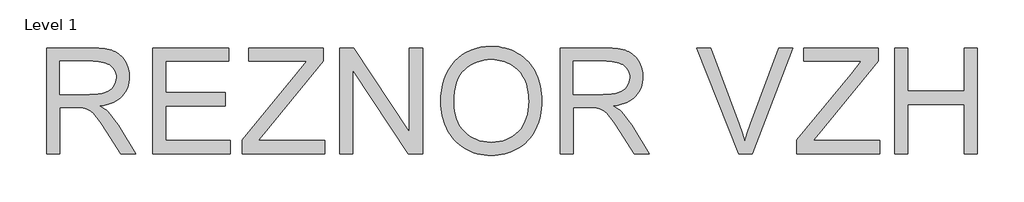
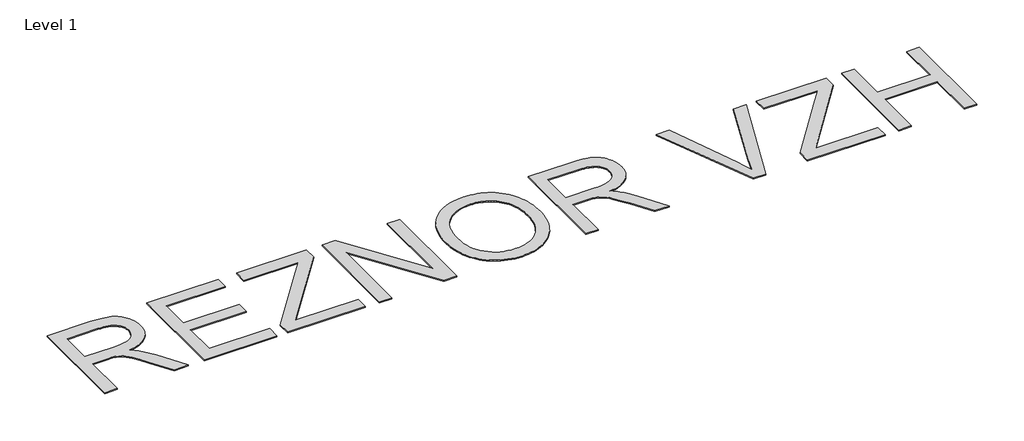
# One storey, incomplete: 1 proxy.
"""IFC4 building model written with IfcOpenShell, lengths in millimetres."""

from ifc_helpers import new_model, si_unit, origin, origin_with_axes, place, context, project, spatial, polyline, outline, extrude, element, save

model = new_model("IFC4")

# Units and contexts
model_context = context("Model", 3, world=origin())
ifc_project = project(units=[si_unit("LENGTHUNIT", "METRE", prefix="MILLI")], contexts=[model_context])

# Site, building, storey
site = spatial("IfcSite", under=ifc_project)
building = spatial("IfcBuilding", under=site)
storey = spatial("IfcBuildingStorey", under=building, Name="Level 1", Elevation=0.0)

# Proxy
placement = place(None, origin())
element("IfcBuildingElementProxy", 1, Name="96\" Arial", ObjectType="96\" Arial", at=placement, inside=storey, context=model_context, shape_type="SweptSolid", body=[
    extrude(outline(polyline([(-7152.262658, -25989.969837), (-7152.262658, -23543.993209), (-6098.2712643, -23543.993209), (-5946.9839373, -23548.1173609), (-5814.9924159, -23560.4898165), (-5702.2967002, -23581.1105759), (-5653.1847694, -23594.5140695), (-5608.89679, -23609.979639), (-5568.075151, -23628.0624588), (-5529.3622412, -23649.3177031), (-5492.7580606, -23673.7453719), (-5458.2626093, -23701.3454652), (-5425.8758872, -23732.1179831), (-5395.5978943, -23766.0629254), (-5367.4286307, -23803.1802923), (-5341.3680963, -23843.4700837), (-5317.9248122, -23885.891931), (-5297.6072993, -23929.4054656), (-5280.4155576, -23974.0106874), (-5266.3495871, -24019.7075965), (-5255.4093878, -24066.4961929), (-5247.5949598, -24114.3764765), (-5242.9063029, -24163.3484474), (-5241.3434173, -24213.4121055), (-5243.9326756, -24277.5137421), (-5251.7004503, -24339.0401165), (-5264.6467416, -24397.9912286), (-5282.7715493, -24454.3670785), (-5306.0748735, -24508.1676661), (-5334.5567143, -24559.3929914), (-5368.2170715, -24608.0430545), (-5407.0559452, -24654.1178554), (-5451.306602, -24696.8616105), (-5501.2023082, -24735.5185363), (-5556.743064, -24770.0886329), (-5617.9288692, -24800.5719003), (-5684.759724, -24826.9683384), (-5757.2356283, -24849.2779473), (-5835.3565822, -24867.500727), (-5919.1225855, -24881.6366775), (-5865.2660139, -24914.6672151), (-5818.3514537, -24947.4738169), (-5778.3789047, -24980.0564829), (-5745.3483671, -25012.415213), (-5682.385071, -25084.4852336), (-5620.0935824, -25160.9593258), (-5497.526028, -25327.1197254), (-5089.6642026, -25989.969837), (-5444.9757489, -25989.969837), (-5763.2632349, -25482.979076), (-5890.6080875, -25289.4985029), (-5993.1707061, -25147.3738844), (-6037.0807937, -25093.7972326), (-6078.6395549, -25049.5139186), (-6117.8469897, -25014.5239422), (-6154.7030981, -24988.8273036), (-6226.7357961, -24953.2215037), (-6263.2560007, -24940.2892084), (-6300.1121091, -24930.603983), (-6371.6222901, -24922.5422925), (-6477.4693011, -24919.8550623), (-6846.5155795, -24919.8550623), (-6846.5155795, -25989.969837), (-7152.262658, -25989.969837)]), holes=[polyline([(-6846.5155795, -24614.1079838), (-6162.1676264, -24614.1079838), (-6058.392022, -24611.4020923), (-5965.6265967, -24603.2844178), (-5883.8713507, -24589.7549602), (-5813.1262839, -24570.8137197), (-5751.805184, -24545.9195179), (-5698.3218389, -24514.5311765), (-5652.6762484, -24476.6486954), (-5614.8684127, -24432.2720748), (-5585.215574, -24383.584689), (-5564.034975, -24332.7699127), (-5551.3266156, -24279.8277459), (-5547.0904958, -24224.7581885), (-5549.1105838, -24184.7576475), (-5555.1708477, -24146.5672547), (-5565.2712875, -24110.18701), (-5579.4119033, -24075.6169134), (-5597.592695, -24042.8569649), (-5619.8136626, -24011.9071645), (-5646.0748062, -23982.7675122), (-5676.3761257, -23955.438008), (-5711.0441943, -23930.6651048), (-5750.405585, -23909.1952553), (-5794.4602978, -23891.0284596), (-5843.2083329, -23876.1647176), (-5896.64969, -23864.6040294), (-5954.7843694, -23856.346395), (-6017.6123709, -23851.3918144), (-6085.1336945, -23849.7402875), (-6846.5155795, -23849.7402875), (-6846.5155795, -24614.1079838)])]), origin_with_axes(), (0.0, 0.0, 1.0), 25.4),
    extrude(outline(polyline([(-4706.2860299, -25989.969837), (-4706.2860299, -23543.993209), (-2948.2403285, -23543.993209), (-2948.2403285, -23849.7402875), (-4400.5389514, -23849.7402875), (-4400.5389514, -24575.889599), (-3024.6770982, -24575.889599), (-3024.6770982, -24881.6366775), (-4400.5389514, -24881.6366775), (-4400.5389514, -25684.2227585), (-2910.0219437, -25684.2227585), (-2910.0219437, -25989.969837), (-4706.2860299, -25989.969837)])), origin_with_axes(), (0.0, 0.0, 1.0), 25.4),
    extrude(outline(polyline([(-2642.49325, -25989.969837), (-2642.49325, -25672.8766755), (-1392.0354719, -24140.5583094), (-1154.3648914, -23849.7402875), (-2489.6197108, -23849.7402875), (-2489.6197108, -23543.993209), (-769.7923942, -23543.993209), (-769.7923942, -23849.7402875), (-2138.4883003, -25526.5719212), (-2267.4753491, -25684.2227585), (-731.5740094, -25684.2227585), (-731.5740094, -25989.969837), (-2642.49325, -25989.969837)])), origin_with_axes(), (0.0, 0.0, 1.0), 25.4),
    extrude(outline(polyline([(-387.6085461, -25989.969837), (-387.6085461, -23543.993209), (-60.3636261, -23543.993209), (1217.5636161, -25481.7847515), (1217.5636161, -23543.993209), (1523.3106946, -23543.993209), (1523.3106946, -25989.969837), (1196.0657746, -25989.969837), (-81.8614676, -24051.5811323), (-81.8614676, -25989.969837), (-387.6085461, -25989.969837)])), origin_with_axes(), (0.0, 0.0, 1.0), 25.4),
    extrude(outline(polyline([(1943.7129275, -24799.2282852), (1948.8074681, -24651.6638917), (1964.0910898, -24512.3291406), (1989.5637925, -24381.224032), (2025.2255764, -24258.3485658), (2071.0764414, -24143.702742), (2127.1163875, -24037.2865606), (2193.3454147, -23939.1000217), (2269.763523, -23849.1431252), (2354.2339912, -23768.6661797), (2444.620098, -23698.9194935), (2540.9218435, -23639.9030668), (2643.1392277, -23591.6168994), (2751.2722506, -23554.0609915), (2865.3209121, -23527.235343), (2985.2852123, -23511.1399539), (3111.1651511, -23505.7748242), (3194.4786174, -23508.2941025), (3275.7206771, -23515.8519374), (3354.8913303, -23528.4483288), (3431.9905768, -23546.0832769), (3507.0184167, -23568.7567816), (3579.97485, -23596.4688428), (3650.8598767, -23629.2194607), (3719.6734968, -23667.0086351), (3785.435991, -23709.3045185), (3847.1676399, -23755.5752632), (3904.8684435, -23805.8208692), (3958.5384019, -23860.0413365), (4008.177515, -23918.2366652), (4053.7857828, -23980.4068551), (4095.3632054, -24046.5519064), (4132.9097826, -24116.6718189), (4166.2202401, -24189.992148), (4195.0893032, -24265.7384488), (4219.516972, -24343.9107212), (4239.5032465, -24424.5089654), (4255.0481267, -24507.5331812), (4266.1516125, -24592.9833687), (4272.813704, -24680.8595279), (4275.0344011, -24771.1616589), (4272.6970707, -24862.6487836), (4265.6850795, -24951.6912754), (4253.9984274, -25038.2891342), (4237.6371144, -25122.4423599), (4216.6011407, -25204.1509526), (4190.8905061, -25283.4149123), (4160.5052106, -25360.234239), (4125.4452543, -25434.6089327), (4086.0978596, -25505.5406127), (4042.8502489, -25572.0308984), (3995.7024221, -25634.0797898), (3944.6543793, -25691.6872868), (3889.7061205, -25744.8533895), (3830.8576456, -25793.5780979), (3768.1089547, -25837.8614119), (3701.4600478, -25877.7033316), (3632.18456, -25912.9732278), (3561.5561265, -25943.5404711), (3489.5747471, -25969.4050616), (3416.2404221, -25990.5669993), (3341.5531513, -26007.0262842), (3265.5129347, -26018.7829162), (3188.1197724, -26025.8368954), (3109.3736643, -26028.1882219), (3024.5206391, -26025.5896329), (2941.9442949, -26017.7938662), (2861.6446319, -26004.8009217), (2783.62165, -25986.6107993), (2707.8753493, -25963.2234991), (2634.4057296, -25934.6390211), (2563.2127911, -25900.8573653), (2494.2965338, -25861.8785317), (2428.5713622, -25818.4069851), (2366.9516812, -25771.1471904), (2309.4374908, -25720.0991476), (2256.0287909, -25665.2628567), (2206.7255816, -25606.6383177), (2161.5278629, -25544.2255306), (2120.4356347, -25478.0244954), (2083.448897, -25408.035212), (2050.6982792, -25335.6246223), (2022.3144104, -25262.159668), (1998.2972906, -25187.6403491), (1978.6469199, -25112.0666656), (1963.3632982, -25035.4386174), (1952.4464256, -24957.7562046), (1945.8963021, -24879.0194272), (1943.7129275, -24799.2282852)]), holes=[polyline([(2249.460006, -24802.2140965), (2253.2809115, -24906.4095807), (2264.7436277, -25004.9133621), (2283.8481548, -25097.7254406), (2310.5944927, -25184.8458163), (2344.9826414, -25266.2744893), (2387.012601, -25342.0114594), (2436.6843714, -25412.0567266), (2493.9979526, -25476.4102911), (2557.077882, -25534.0737721), (2624.0486966, -25584.048789), (2694.9103967, -25626.3353417), (2769.6629821, -25660.9334303), (2848.3064529, -25687.8430548), (2930.8408091, -25707.0642151), (3017.2660506, -25718.5969113), (3107.5821776, -25722.4411433), (3199.5498313, -25718.5595886), (3287.3466799, -25706.9149245), (3370.9727234, -25687.507151), (3450.4279616, -25660.336268), (3525.7123947, -25625.4022757), (3596.8260226, -25582.7051739), (3663.7688453, -25532.2449627), (3726.5408628, -25474.0216421), (3783.4345644, -25408.6603663), (3832.742439, -25336.7862896), (3874.4644868, -25258.3994119), (3908.6007077, -25173.4997334), (3935.1511017, -25082.0872539), (3954.1156689, -24984.1619734), (3965.4944092, -24879.7238921), (3969.2873226, -24768.7730098), (3967.6637877, -24697.6640472), (3962.793183, -24628.8504271), (3954.6755085, -24562.3321495), (3943.3107642, -24498.1092142), (3928.6989501, -24436.1816215), (3910.8400662, -24376.5493711), (3889.7341125, -24319.2124633), (3865.3810889, -24264.1708978), (3837.9069595, -24211.7932359), (3807.4376881, -24162.4480386), (3773.9732748, -24116.135306), (3737.5137194, -24072.8550379), (3698.0590221, -24032.6072345), (3655.6091828, -23995.3918956), (3610.1642016, -23961.2090214), (3561.7240783, -23930.0586118), (3511.0166046, -23902.2765706), (3458.769572, -23878.1988016), (3404.9829804, -23857.8253047), (3349.6568298, -23841.15608), (3292.7911203, -23828.1911274), (3234.3858518, -23818.930447), (3174.4410243, -23813.3740388), (3112.9566379, -23811.5219027), (3026.116182, -23815.0908803), (2942.354844, -23825.797813), (2861.6726239, -23843.642701), (2784.0695217, -23868.6255441), (2709.5455375, -23900.7463423), (2638.1006711, -23940.0050958), (2569.7349227, -23986.4018044), (2504.4482922, -24039.9364682), (2444.6854126, -24101.8127423), (2392.890917, -24173.234282), (2349.0648053, -24254.2010872), (2313.2070776, -24344.713158), (2285.3177338, -24444.7704943), (2265.3967739, -24554.3730962), (2253.444198, -24673.5209636), (2249.460006, -24802.2140965)])]), origin_with_axes(), (0.0, 0.0, 1.0), 25.4),
    extrude(outline(polyline([(4695.4366341, -25989.969837), (4695.4366341, -23543.993209), (5749.4280278, -23543.993209), (5900.7153548, -23548.1173609), (6032.7068761, -23560.4898165), (6145.4025919, -23581.1105759), (6194.5145227, -23594.5140695), (6238.802502, -23609.979639), (6279.6241411, -23628.0624588), (6318.3370509, -23649.3177031), (6354.9412315, -23673.7453719), (6389.4366828, -23701.3454652), (6421.8234049, -23732.1179831), (6452.1013978, -23766.0629254), (6480.2706614, -23803.1802923), (6506.3311957, -23843.4700837), (6529.7744799, -23885.891931), (6550.0919928, -23929.4054656), (6567.2837345, -23974.0106874), (6581.349705, -24019.7075965), (6592.2899043, -24066.4961929), (6600.1043323, -24114.3764765), (6604.7929891, -24163.3484474), (6606.3558747, -24213.4121055), (6603.7666165, -24277.5137421), (6595.9988418, -24339.0401165), (6583.0525505, -24397.9912286), (6564.9277428, -24454.3670785), (6541.6244185, -24508.1676661), (6513.1425778, -24559.3929914), (6479.4822206, -24608.0430545), (6440.6433468, -24654.1178554), (6396.3926901, -24696.8616105), (6346.4969839, -24735.5185363), (6290.9562281, -24770.0886329), (6229.7704228, -24800.5719003), (6162.939568, -24826.9683384), (6090.4636637, -24849.2779473), (6012.3427099, -24867.500727), (5928.5767066, -24881.6366775), (5982.4332781, -24914.6672151), (6029.3478384, -24947.4738169), (6069.3203874, -24980.0564829), (6102.350925, -25012.415213), (6165.3142211, -25084.4852336), (6227.6057096, -25160.9593258), (6350.173264, -25327.1197254), (6758.0350895, -25989.969837), (6402.7235432, -25989.969837), (6084.4360571, -25482.979076), (5957.0912046, -25289.4985029), (5854.528586, -25147.3738844), (5810.6184984, -25093.7972326), (5769.0597371, -25049.5139186), (5729.8523023, -25014.5239422), (5692.9961939, -24988.8273036), (5620.963496, -24953.2215037), (5584.4432914, -24940.2892084), (5547.587183, -24930.603983), (5476.077002, -24922.5422925), (5370.2299909, -24919.8550623), (5001.1837126, -24919.8550623), (5001.1837126, -25989.969837), (4695.4366341, -25989.969837)]), holes=[polyline([(5001.1837126, -24614.1079838), (5685.5316657, -24614.1079838), (5789.3072701, -24611.4020923), (5882.0726954, -24603.2844178), (5963.8279414, -24589.7549602), (6034.5730082, -24570.8137197), (6095.8941081, -24545.9195179), (6149.3774532, -24514.5311765), (6195.0230437, -24476.6486954), (6232.8308794, -24432.2720748), (6262.483718, -24383.584689), (6283.664317, -24332.7699127), (6296.3726764, -24279.8277459), (6300.6087962, -24224.7581885), (6298.5887083, -24184.7576475), (6292.5284444, -24146.5672547), (6282.4280045, -24110.18701), (6268.2873888, -24075.6169134), (6250.1065971, -24042.8569649), (6227.8856294, -24011.9071645), (6201.6244859, -23982.7675122), (6171.3231664, -23955.438008), (6136.6550978, -23930.6651048), (6097.2937071, -23909.1952553), (6053.2389942, -23891.0284596), (6004.4909592, -23876.1647176), (5951.049602, -23864.6040294), (5892.9149227, -23856.346395), (5830.0869212, -23851.3918144), (5762.5655975, -23849.7402875), (5001.1837126, -23849.7402875), (5001.1837126, -24614.1079838)])]), origin_with_axes(), (0.0, 0.0, 1.0), 25.4),
    extrude(outline(polyline([(8818.8420581, -25989.969837), (7846.0647321, -23543.993209), (8173.3096521, -23543.993209), (8824.8136807, -25306.2190462), (8897.219605, -25511.493574), (8956.7865408, -25703.3319509), (9017.3985104, -25504.626208), (9086.967914, -25306.2190462), (9740.2634294, -23543.993209), (10066.9111871, -23543.993209), (9134.1437328, -25989.969837), (8818.8420581, -25989.969837)])), origin_with_axes(), (0.0, 0.0, 1.0), 25.4),
    extrude(outline(polyline([(10160.6656624, -25989.969837), (10160.6656624, -25672.8766755), (11411.1234405, -24140.5583094), (11648.794021, -23849.7402875), (10313.5392016, -23849.7402875), (10313.5392016, -23543.993209), (12033.3665182, -23543.993209), (12033.3665182, -23849.7402875), (10664.6706121, -25526.5719212), (10535.6835633, -25684.2227585), (12071.584903, -25684.2227585), (12071.584903, -25989.969837), (10160.6656624, -25989.969837)])), origin_with_axes(), (0.0, 0.0, 1.0), 25.4),
    extrude(outline(polyline([(12415.5503663, -25989.969837), (12415.5503663, -23543.993209), (12721.2974448, -23543.993209), (12721.2974448, -24537.6712141), (14020.7225285, -24537.6712141), (14020.7225285, -23543.993209), (14326.469607, -23543.993209), (14326.469607, -25989.969837), (14020.7225285, -25989.969837), (14020.7225285, -24843.4182926), (12721.2974448, -24843.4182926), (12721.2974448, -25989.969837), (12415.5503663, -25989.969837)])), origin_with_axes(), (0.0, 0.0, 1.0), 25.4),
])

save(model, "model.ifc")
